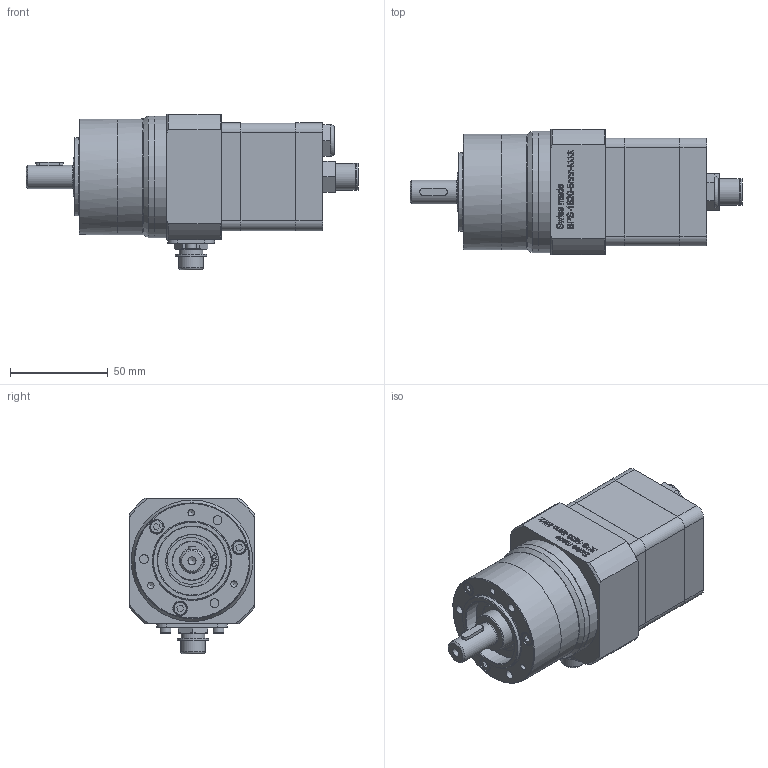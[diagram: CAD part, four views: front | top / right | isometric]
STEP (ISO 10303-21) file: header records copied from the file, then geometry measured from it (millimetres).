
FILE_DESCRIPTION(/* description */ (''),/* implementation_level */ '2;1');
FILE_NAME(/* name */ 'G:\02 CAD Dateien\02 - CAD Schrittmotoren BPS\01 - Standart Produkte\BPS 1620-23\Verkaufsunterlagen\STEP ab JULI 2017\500-16-314f Schrittmotor BPS-1620-S5-MX.stp',/* time_stamp */ '2017-12-19T15:11:37+01:00',/* author */ ('RSc'),/* organization */ (''),/* preprocessor_version */ 'ST-DEVELOPER v16.1',/* originating_system */ 'Autodesk Inventor 2016',/* authorisation */ '');
FILE_SCHEMA (('AUTOMOTIVE_DESIGN { 1 0 10303 214 3 1 1 }'));
Length unit declared in the file: millimetre
Products named in the file (1): 500-16-314f Schrittmotor BPS-1620-S5-MX
Bounding box: 169.4 x 64 x 79.5 mm (x, y, z)
Volume: 390065.3 mm3; surface area: 52902.4 mm2
Topology: 12 solids, 37 shells, 864 faces, 2148 edges, 1425 vertices
Faces by surface type: plane 448, bspline 207, cylinder 131, torus 37, cone 30, sphere 11
Full cylindrical faces by diameter (mm): 1 x10, 2 x2, 3 x5, 3.242 x3, 3.3 x6, 4 x3, 4.134 x1, 4.5 x6, 5.5 x4, 7 x3, 7.5 x3, 8 x9, 8.4 x1, 8.566 x4, 9.4 x1, 11 x1, 12 x2, 12.5 x1, 12.6 x1, 13.6 x2, 16 x2, 19 x1, 20 x2, 25.325 x1, 26.657 x1, 26.857 x1, 35 x1, 35.343 x1, 36.675 x1, 38.675 x1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
Entity records: 26862 total; most frequent: CARTESIAN_POINT 7291, ORIENTED_EDGE 3972, DIRECTION 3182, EDGE_CURVE 1964, VERTEX_POINT 1371, EDGE_LOOP 1121, LINE 1118, VECTOR 1118
